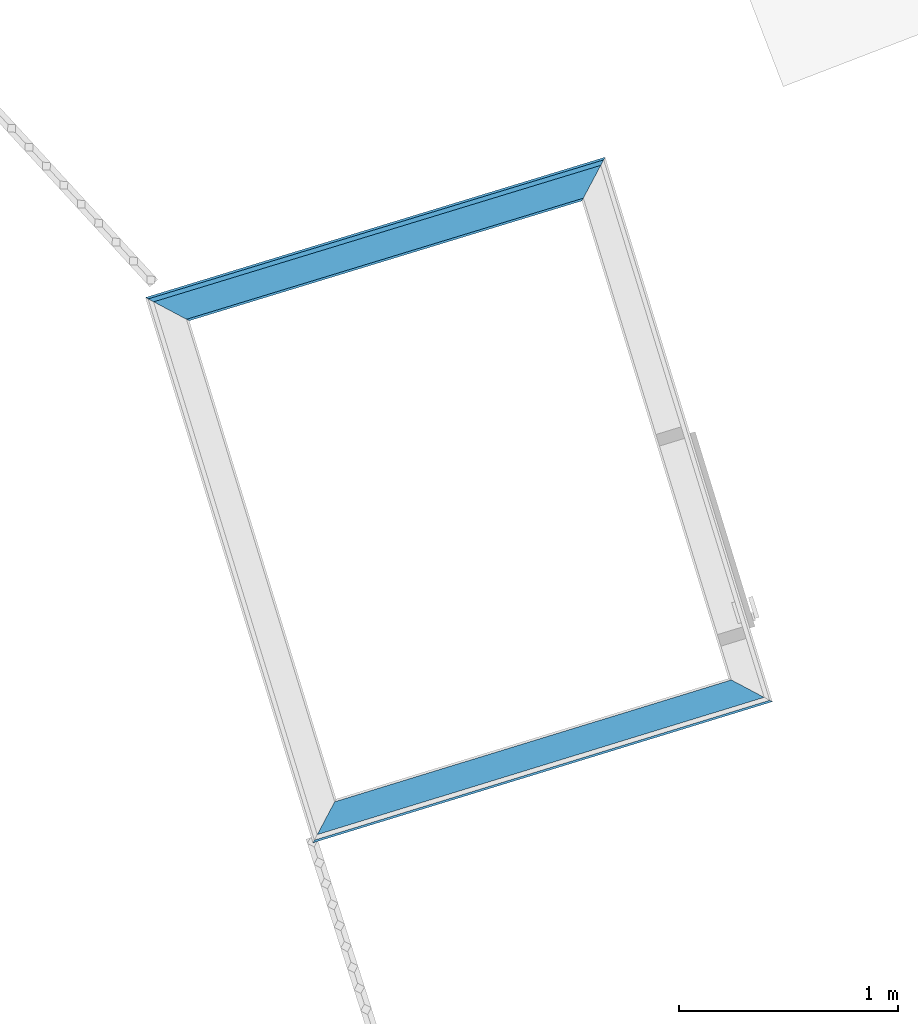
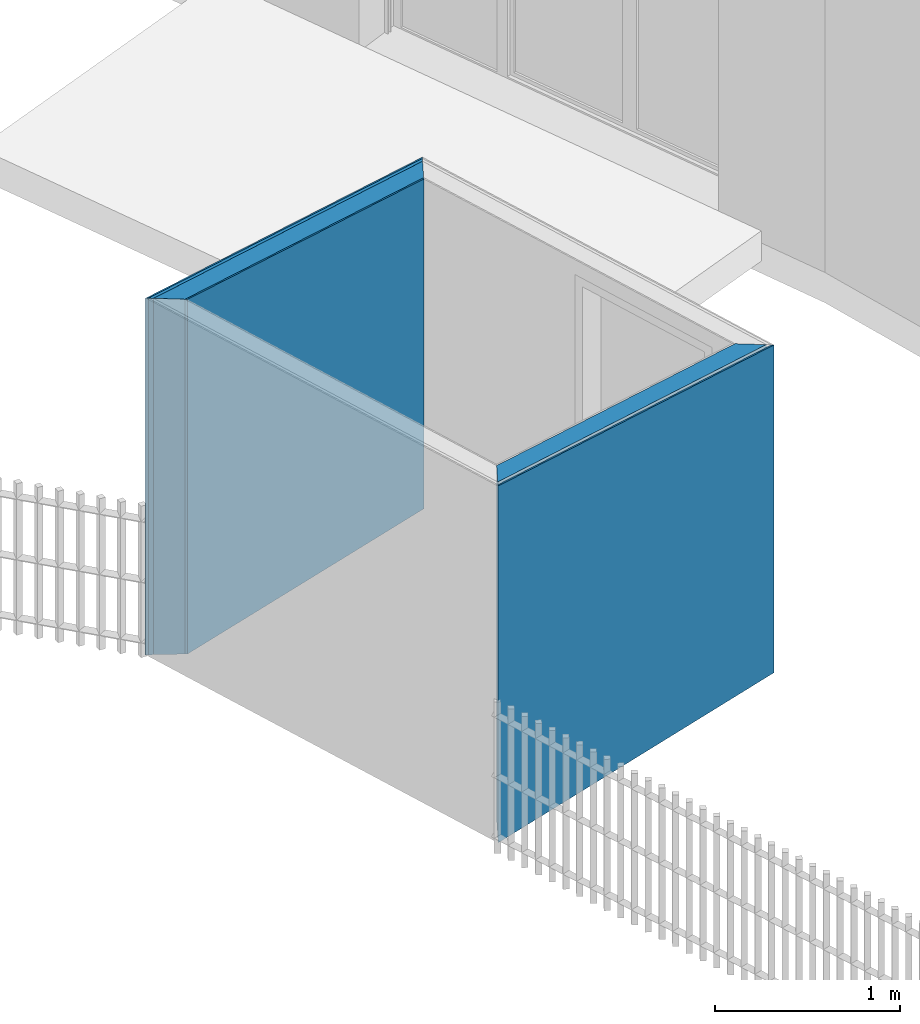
# One storey, part 130 of 195: 6 building element parts, 2 elements without a shape of their own.
"""IFC2X3 building model written with IfcOpenShell, lengths in metres."""

from ifc_helpers import new_model, entity, si_unit, converted_unit, derived_unit, money_unit, direction, frame, origin_with_axes, place, context, subcontext, project, spatial, polyline, outline, extrude, boolean, faceted_brep, material, type_object, element, aggregate, save


model = new_model("IFC2X3")

# Units and contexts
model_context = context("Model", 3, precision=1e-05, world=origin_with_axes(), true_north=direction((0.0, 1.0)))
body_context = subcontext(model_context, "Body", "Model", "MODEL_VIEW")
ifc_project = project(units=[si_unit("LENGTHUNIT", "METRE"), si_unit("AREAUNIT", "SQUARE_METRE"), si_unit("VOLUMEUNIT", "CUBIC_METRE"), converted_unit("PLANEANGLEUNIT", "DEGREE", entity("IfcPlaneAngleMeasure", 0.0174532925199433), si_unit("PLANEANGLEUNIT", "RADIAN"), dimensions=[0, 0, 0, 0, 0, 0, 0]), money_unit("CHF"), converted_unit("TIMEUNIT", "Year", entity("IfcTimeMeasure", 31557600.0), si_unit("TIMEUNIT", "SECOND"), dimensions=[0, 0, 1, 0, 0, 0, 0]), si_unit("MASSUNIT", "GRAM", prefix="KILO"), si_unit("THERMODYNAMICTEMPERATUREUNIT", "DEGREE_CELSIUS"), si_unit("LUMINOUSINTENSITYUNIT", "LUMEN"), si_unit("ENERGYUNIT", "JOULE", prefix="MEGA"), derived_unit("THERMALCONDUCTANCEUNIT", [(si_unit("POWERUNIT", "WATT"), 1), (si_unit("LENGTHUNIT", "METRE"), -1), (si_unit("THERMODYNAMICTEMPERATUREUNIT", "KELVIN"), -1)]), derived_unit("SPECIFICHEATCAPACITYUNIT", [(si_unit("ENERGYUNIT", "JOULE"), 1), (si_unit("MASSUNIT", "GRAM", prefix="KILO"), -1), (si_unit("THERMODYNAMICTEMPERATUREUNIT", "KELVIN"), -1)]), derived_unit("MASSDENSITYUNIT", [(si_unit("MASSUNIT", "GRAM", prefix="KILO"), 1), (si_unit("VOLUMEUNIT", "CUBIC_METRE"), -1)])], contexts=[model_context])

# Site, building, storey
site_placement = place(None, origin_with_axes())
site = spatial("IfcSite", under=ifc_project, at=site_placement, Name="Site", CompositionType="ELEMENT")
building_placement = place(site_placement, origin_with_axes())
building = spatial("IfcBuilding", under=site, at=building_placement, Name="Bâtiment", CompositionType="ELEMENT")
storey_placement = place(building_placement, origin_with_axes())
storey = spatial("IfcBuildingStorey", under=building, at=storey_placement, Name="rdc", CompositionType="ELEMENT", Elevation=0.0)

# Wall, building element parts
wall_type = type_object("IfcWallType", Name="1/Ossatur bois 160   non isol 160", PredefinedType="NOTDEFINED")
wall_1_placement = place(storey_placement, frame((9583.490564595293, -1047.727976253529, 57.7), z_axis=(0.0, 0.0, 1.0), x_axis=(-0.9564332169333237, -0.2919511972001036, 0.0)))
wall_1 = element("IfcWall", 1, at=wall_1_placement, inside=storey, type_object=wall_type, Name="Mur-111")
ifc_material_1 = material(Name="Lame d'air 275581439")
building_element_part_1_placement = place(wall_1_placement, origin_with_axes())
building_element_part_1 = element("IfcBuildingElementPart", 2, at=building_element_part_1_placement, material=ifc_material_1, Name="Lame d'air 275581439", context=body_context, shape_type="CSG", body=[
    boolean("DIFFERENCE", boolean("DIFFERENCE", boolean("DIFFERENCE", boolean("DIFFERENCE", extrude(outline(polyline([(-0.0002757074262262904, 0.03000000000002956), (2.193111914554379, 0.03000000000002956), (2.193111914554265, 0.1499999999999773), (-0.0002757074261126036, 0.1499999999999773), (-0.0002757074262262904, 0.03000000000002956)])), origin_with_axes(), (0.0, 0.0, 1.0), 2.75), faceted_brep([(2.042853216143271, 0.1499999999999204, 2.342973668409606), (2.042853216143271, 0.1499999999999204, 0.0), (2.193111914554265, 0.1499999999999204, 0.0), (2.193111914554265, 0.1499999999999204, 2.75), (-0.0002757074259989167, 0.1499999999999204, 2.75), (-0.0002757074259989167, 0.1499999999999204, 0.0), (0.1497417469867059, 0.1499999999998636, 0.0), (0.1497417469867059, 0.1499999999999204, 2.177348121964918), (2.032835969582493, 0.1599999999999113, 2.342098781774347), (2.032835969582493, 0.1599999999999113, 0.0), (2.193111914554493, 0.1599999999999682, 0.0), (2.193111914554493, 0.1599999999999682, 2.75), (-0.0002757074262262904, 0.1599999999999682, 2.75), (-0.0002757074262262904, 0.1599999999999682, 0.0), (0.1597245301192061, 0.1599999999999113, 0.0), (0.1597245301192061, 0.1599999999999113, 2.178223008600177)], [[[0, 1, 2, 3, 4, 5, 6, 7]], [[8, 9, 1, 0]], [[1, 9, 10, 2]], [[3, 2, 10, 11]], [[12, 4, 3, 11]], [[12, 13, 5, 4]], [[14, 6, 5, 13]], [[7, 6, 14, 15]], [[0, 7, 15, 8]], [[15, 14, 13, 12, 11, 10, 9, 8]]])), faceted_brep([(2.163060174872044, 0.02999999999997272, 2.353472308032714), (2.163060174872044, 0.02999999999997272, 0.0), (2.193111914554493, 0.02999999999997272, 0.0), (2.193111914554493, 0.02999999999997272, 2.75), (-0.0002757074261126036, 0.02999999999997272, 2.75), (-0.0002757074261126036, 0.02999999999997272, 0.0), (0.02994834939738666, 0.02999999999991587, 0.0), (0.02994834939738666, 0.02999999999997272, 2.166849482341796), (2.042853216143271, 0.1499999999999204, 2.342973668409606), (2.042853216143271, 0.1499999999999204, 0.0), (2.193111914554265, 0.1499999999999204, 0.0), (2.193111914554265, 0.1499999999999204, 2.75), (-0.0002757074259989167, 0.1499999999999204, 2.75), (-0.0002757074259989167, 0.1499999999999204, 0.0), (0.1497417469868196, 0.1499999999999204, 0.0), (0.1497417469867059, 0.1499999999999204, 2.177348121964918)], [[[0, 1, 2, 3, 4, 5, 6, 7]], [[8, 9, 1, 0]], [[1, 9, 10, 2]], [[3, 2, 10, 11]], [[12, 4, 3, 11]], [[12, 13, 5, 4]], [[14, 6, 5, 13]], [[7, 6, 14, 15]], [[0, 7, 15, 8]], [[15, 14, 13, 12, 11, 10, 9, 8]]])), faceted_brep([(2.183094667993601, 0.009999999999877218, 2.355222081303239), (2.183094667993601, 0.009999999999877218, 0.0), (2.193111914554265, 0.009999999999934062, 0.0), (2.193111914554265, 0.009999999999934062, 2.75), (-0.0002757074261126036, 0.009999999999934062, 2.75), (-0.0002757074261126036, 0.009999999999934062, 0.0), (0.009982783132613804, 0.009999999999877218, 0.0), (0.00998278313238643, 0.009999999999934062, 2.165099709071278), (2.163060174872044, 0.02999999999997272, 2.353472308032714), (2.163060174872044, 0.02999999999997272, 0.0), (2.193111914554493, 0.02999999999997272, 0.0), (2.193111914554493, 0.02999999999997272, 2.75), (-0.0002757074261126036, 0.02999999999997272, 2.75), (-0.0002757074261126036, 0.02999999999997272, 0.0), (0.02994834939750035, 0.02999999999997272, 0.0), (0.02994834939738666, 0.02999999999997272, 2.166849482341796)], [[[0, 1, 2, 3, 4, 5, 6, 7]], [[8, 9, 1, 0]], [[1, 9, 10, 2]], [[3, 2, 10, 11]], [[12, 4, 3, 11]], [[12, 13, 5, 4]], [[14, 6, 5, 13]], [[7, 6, 14, 15]], [[0, 7, 15, 8]], [[15, 14, 13, 12, 11, 10, 9, 8]]])), faceted_brep([(0.0, 0.0, 2.164224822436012), (2.193111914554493, 0.0, 2.356096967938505), (2.193111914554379, 0.0, 2.75), (-0.0002757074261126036, 0.0, 2.75), (-0.0002757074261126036, 0.0, 0.0), (0.0, 0.0, 0.0), (0.00998278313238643, 0.009999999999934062, 2.165099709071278), (2.183094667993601, 0.009999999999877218, 2.355222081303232), (2.193111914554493, 0.0, 0.0), (2.193111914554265, 0.009999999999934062, 0.0), (2.193111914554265, 0.009999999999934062, 2.75), (-0.0002757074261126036, 0.009999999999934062, 2.75), (-0.0002757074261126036, 0.009999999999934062, 0.0), (0.009982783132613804, 0.009999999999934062, 0.0), (2.183094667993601, 0.009999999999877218, 0.0)], [[[0, 1, 2, 3, 4, 5]], [[1, 0, 6, 7]], [[1, 8, 9, 10, 2]], [[11, 3, 2, 10]], [[11, 12, 4, 3]], [[13, 5, 4, 12]], [[0, 5, 13, 6]], [[6, 13, 12, 11, 10, 9, 14, 7]], [[7, 14, 8, 1]], [[8, 14, 9]]])),
])
ifc_material_2 = material(Name="Sans Trame 296962763")
building_element_part_2_placement = place(wall_1_placement, origin_with_axes())
building_element_part_2 = element("IfcBuildingElementPart", 3, at=building_element_part_2_placement, material=ifc_material_2, Name="Sans Trame 296962763", context=body_context, shape_type="CSG", body=[
    boolean("DIFFERENCE", boolean("DIFFERENCE", boolean("DIFFERENCE", boolean("DIFFERENCE", extrude(outline(polyline([(-0.0002757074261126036, 0.1499999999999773), (2.193111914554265, 0.1499999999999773), (2.193111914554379, 0.160000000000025), (-0.0002757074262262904, 0.1599999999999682), (-0.0002757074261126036, 0.1499999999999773)])), origin_with_axes(), (0.0, 0.0, 1.0), 2.75), faceted_brep([(2.042853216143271, 0.1499999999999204, 2.342973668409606), (2.042853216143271, 0.1499999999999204, 0.0), (2.193111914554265, 0.1499999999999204, 0.0), (2.193111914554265, 0.1499999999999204, 2.75), (-0.0002757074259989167, 0.1499999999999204, 2.75), (-0.0002757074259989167, 0.1499999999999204, 0.0), (0.1497417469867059, 0.1499999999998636, 0.0), (0.1497417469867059, 0.1499999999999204, 2.177348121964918), (2.032835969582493, 0.1599999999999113, 2.342098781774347), (2.032835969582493, 0.1599999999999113, 0.0), (2.193111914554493, 0.1599999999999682, 0.0), (2.193111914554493, 0.1599999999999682, 2.75), (-0.0002757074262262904, 0.1599999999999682, 2.75), (-0.0002757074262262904, 0.1599999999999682, 0.0), (0.1597245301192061, 0.1599999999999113, 0.0), (0.1597245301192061, 0.1599999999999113, 2.178223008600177)], [[[0, 1, 2, 3, 4, 5, 6, 7]], [[8, 9, 1, 0]], [[1, 9, 10, 2]], [[3, 2, 10, 11]], [[12, 4, 3, 11]], [[12, 13, 5, 4]], [[14, 6, 5, 13]], [[7, 6, 14, 15]], [[0, 7, 15, 8]], [[15, 14, 13, 12, 11, 10, 9, 8]]])), faceted_brep([(2.163060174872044, 0.02999999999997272, 2.353472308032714), (2.163060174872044, 0.02999999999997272, 0.0), (2.193111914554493, 0.02999999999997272, 0.0), (2.193111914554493, 0.02999999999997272, 2.75), (-0.0002757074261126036, 0.02999999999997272, 2.75), (-0.0002757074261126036, 0.02999999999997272, 0.0), (0.02994834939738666, 0.02999999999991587, 0.0), (0.02994834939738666, 0.02999999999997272, 2.166849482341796), (2.042853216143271, 0.1499999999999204, 2.342973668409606), (2.042853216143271, 0.1499999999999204, 0.0), (2.193111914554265, 0.1499999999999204, 0.0), (2.193111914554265, 0.1499999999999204, 2.75), (-0.0002757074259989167, 0.1499999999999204, 2.75), (-0.0002757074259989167, 0.1499999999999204, 0.0), (0.1497417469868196, 0.1499999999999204, 0.0), (0.1497417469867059, 0.1499999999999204, 2.177348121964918)], [[[0, 1, 2, 3, 4, 5, 6, 7]], [[8, 9, 1, 0]], [[1, 9, 10, 2]], [[3, 2, 10, 11]], [[12, 4, 3, 11]], [[12, 13, 5, 4]], [[14, 6, 5, 13]], [[7, 6, 14, 15]], [[0, 7, 15, 8]], [[15, 14, 13, 12, 11, 10, 9, 8]]])), faceted_brep([(2.183094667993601, 0.009999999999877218, 2.355222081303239), (2.183094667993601, 0.009999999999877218, 0.0), (2.193111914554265, 0.009999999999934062, 0.0), (2.193111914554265, 0.009999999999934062, 2.75), (-0.0002757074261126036, 0.009999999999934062, 2.75), (-0.0002757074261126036, 0.009999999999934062, 0.0), (0.009982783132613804, 0.009999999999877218, 0.0), (0.00998278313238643, 0.009999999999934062, 2.165099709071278), (2.163060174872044, 0.02999999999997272, 2.353472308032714), (2.163060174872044, 0.02999999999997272, 0.0), (2.193111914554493, 0.02999999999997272, 0.0), (2.193111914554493, 0.02999999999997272, 2.75), (-0.0002757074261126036, 0.02999999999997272, 2.75), (-0.0002757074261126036, 0.02999999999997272, 0.0), (0.02994834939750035, 0.02999999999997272, 0.0), (0.02994834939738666, 0.02999999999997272, 2.166849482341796)], [[[0, 1, 2, 3, 4, 5, 6, 7]], [[8, 9, 1, 0]], [[1, 9, 10, 2]], [[3, 2, 10, 11]], [[12, 4, 3, 11]], [[12, 13, 5, 4]], [[14, 6, 5, 13]], [[7, 6, 14, 15]], [[0, 7, 15, 8]], [[15, 14, 13, 12, 11, 10, 9, 8]]])), faceted_brep([(0.0, 0.0, 2.164224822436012), (2.193111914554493, 0.0, 2.356096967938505), (2.193111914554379, 0.0, 2.75), (-0.0002757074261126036, 0.0, 2.75), (-0.0002757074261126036, 0.0, 0.0), (0.0, 0.0, 0.0), (0.00998278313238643, 0.009999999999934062, 2.165099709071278), (2.183094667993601, 0.009999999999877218, 2.355222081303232), (2.193111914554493, 0.0, 0.0), (2.193111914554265, 0.009999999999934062, 0.0), (2.193111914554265, 0.009999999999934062, 2.75), (-0.0002757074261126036, 0.009999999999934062, 2.75), (-0.0002757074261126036, 0.009999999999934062, 0.0), (0.009982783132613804, 0.009999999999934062, 0.0), (2.183094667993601, 0.009999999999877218, 0.0)], [[[0, 1, 2, 3, 4, 5]], [[1, 0, 6, 7]], [[1, 8, 9, 10, 2]], [[11, 3, 2, 10]], [[11, 12, 4, 3]], [[13, 5, 4, 12]], [[0, 5, 13, 6]], [[6, 13, 12, 11, 10, 9, 14, 7]], [[7, 14, 8, 1]], [[8, 14, 9]]])),
])
ifc_material_3 = material(Name="Hachure solide 323202122")
building_element_part_3_placement = place(wall_1_placement, origin_with_axes())
building_element_part_3 = element("IfcBuildingElementPart", 4, at=building_element_part_3_placement, material=ifc_material_3, Name="Hachure solide 323202122", context=body_context, shape_type="CSG", body=[
    boolean("DIFFERENCE", boolean("DIFFERENCE", boolean("DIFFERENCE", boolean("DIFFERENCE", extrude(outline(polyline([(-0.0002757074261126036, 0.0), (2.193111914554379, 0.0), (2.193111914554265, 0.009999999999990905), (-0.0002757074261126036, 0.009999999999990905), (-0.0002757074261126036, 0.0)])), origin_with_axes(), (0.0, 0.0, 1.0), 2.75), faceted_brep([(2.042853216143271, 0.1499999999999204, 2.342973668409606), (2.042853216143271, 0.1499999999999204, 0.0), (2.193111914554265, 0.1499999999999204, 0.0), (2.193111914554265, 0.1499999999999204, 2.75), (-0.0002757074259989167, 0.1499999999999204, 2.75), (-0.0002757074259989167, 0.1499999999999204, 0.0), (0.1497417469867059, 0.1499999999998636, 0.0), (0.1497417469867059, 0.1499999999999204, 2.177348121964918), (2.032835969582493, 0.1599999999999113, 2.342098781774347), (2.032835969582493, 0.1599999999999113, 0.0), (2.193111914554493, 0.1599999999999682, 0.0), (2.193111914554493, 0.1599999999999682, 2.75), (-0.0002757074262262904, 0.1599999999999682, 2.75), (-0.0002757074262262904, 0.1599999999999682, 0.0), (0.1597245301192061, 0.1599999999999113, 0.0), (0.1597245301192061, 0.1599999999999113, 2.178223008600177)], [[[0, 1, 2, 3, 4, 5, 6, 7]], [[8, 9, 1, 0]], [[1, 9, 10, 2]], [[3, 2, 10, 11]], [[12, 4, 3, 11]], [[12, 13, 5, 4]], [[14, 6, 5, 13]], [[7, 6, 14, 15]], [[0, 7, 15, 8]], [[15, 14, 13, 12, 11, 10, 9, 8]]])), faceted_brep([(2.163060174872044, 0.02999999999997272, 2.353472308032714), (2.163060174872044, 0.02999999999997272, 0.0), (2.193111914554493, 0.02999999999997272, 0.0), (2.193111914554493, 0.02999999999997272, 2.75), (-0.0002757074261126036, 0.02999999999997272, 2.75), (-0.0002757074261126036, 0.02999999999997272, 0.0), (0.02994834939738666, 0.02999999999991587, 0.0), (0.02994834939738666, 0.02999999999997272, 2.166849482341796), (2.042853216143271, 0.1499999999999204, 2.342973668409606), (2.042853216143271, 0.1499999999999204, 0.0), (2.193111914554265, 0.1499999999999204, 0.0), (2.193111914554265, 0.1499999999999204, 2.75), (-0.0002757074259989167, 0.1499999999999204, 2.75), (-0.0002757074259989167, 0.1499999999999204, 0.0), (0.1497417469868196, 0.1499999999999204, 0.0), (0.1497417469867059, 0.1499999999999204, 2.177348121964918)], [[[0, 1, 2, 3, 4, 5, 6, 7]], [[8, 9, 1, 0]], [[1, 9, 10, 2]], [[3, 2, 10, 11]], [[12, 4, 3, 11]], [[12, 13, 5, 4]], [[14, 6, 5, 13]], [[7, 6, 14, 15]], [[0, 7, 15, 8]], [[15, 14, 13, 12, 11, 10, 9, 8]]])), faceted_brep([(2.183094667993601, 0.009999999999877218, 2.355222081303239), (2.183094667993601, 0.009999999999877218, 0.0), (2.193111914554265, 0.009999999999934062, 0.0), (2.193111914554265, 0.009999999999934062, 2.75), (-0.0002757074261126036, 0.009999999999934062, 2.75), (-0.0002757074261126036, 0.009999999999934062, 0.0), (0.009982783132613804, 0.009999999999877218, 0.0), (0.00998278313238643, 0.009999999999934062, 2.165099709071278), (2.163060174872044, 0.02999999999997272, 2.353472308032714), (2.163060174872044, 0.02999999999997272, 0.0), (2.193111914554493, 0.02999999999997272, 0.0), (2.193111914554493, 0.02999999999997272, 2.75), (-0.0002757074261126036, 0.02999999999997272, 2.75), (-0.0002757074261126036, 0.02999999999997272, 0.0), (0.02994834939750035, 0.02999999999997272, 0.0), (0.02994834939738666, 0.02999999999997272, 2.166849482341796)], [[[0, 1, 2, 3, 4, 5, 6, 7]], [[8, 9, 1, 0]], [[1, 9, 10, 2]], [[3, 2, 10, 11]], [[12, 4, 3, 11]], [[12, 13, 5, 4]], [[14, 6, 5, 13]], [[7, 6, 14, 15]], [[0, 7, 15, 8]], [[15, 14, 13, 12, 11, 10, 9, 8]]])), faceted_brep([(0.0, 0.0, 2.164224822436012), (2.193111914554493, 0.0, 2.356096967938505), (2.193111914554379, 0.0, 2.75), (-0.0002757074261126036, 0.0, 2.75), (-0.0002757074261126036, 0.0, 0.0), (0.0, 0.0, 0.0), (0.00998278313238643, 0.009999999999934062, 2.165099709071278), (2.183094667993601, 0.009999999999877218, 2.355222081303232), (2.193111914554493, 0.0, 0.0), (2.193111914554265, 0.009999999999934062, 0.0), (2.193111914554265, 0.009999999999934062, 2.75), (-0.0002757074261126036, 0.009999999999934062, 2.75), (-0.0002757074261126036, 0.009999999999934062, 0.0), (0.009982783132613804, 0.009999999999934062, 0.0), (2.183094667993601, 0.009999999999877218, 0.0)], [[[0, 1, 2, 3, 4, 5]], [[1, 0, 6, 7]], [[1, 8, 9, 10, 2]], [[11, 3, 2, 10]], [[11, 12, 4, 3]], [[13, 5, 4, 12]], [[0, 5, 13, 6]], [[6, 13, 12, 11, 10, 9, 14, 7]], [[7, 14, 8, 1]], [[8, 14, 9]]])),
])
ifc_material_4 = material(Name="Lame d'air 323202302")
building_element_part_4_placement = place(wall_1_placement, origin_with_axes())
building_element_part_4 = element("IfcBuildingElementPart", 5, at=building_element_part_4_placement, material=ifc_material_4, Name="Lame d'air 323202302", context=body_context, shape_type="CSG", body=[
    boolean("DIFFERENCE", boolean("DIFFERENCE", boolean("DIFFERENCE", boolean("DIFFERENCE", extrude(outline(polyline([(-0.0002757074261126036, 0.009999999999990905), (2.193111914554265, 0.009999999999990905), (2.193111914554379, 0.03000000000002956), (-0.0002757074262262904, 0.03000000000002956), (-0.0002757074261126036, 0.009999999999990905)])), origin_with_axes(), (0.0, 0.0, 1.0), 2.75), faceted_brep([(2.042853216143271, 0.1499999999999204, 2.342973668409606), (2.042853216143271, 0.1499999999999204, 0.0), (2.193111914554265, 0.1499999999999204, 0.0), (2.193111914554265, 0.1499999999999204, 2.75), (-0.0002757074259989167, 0.1499999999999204, 2.75), (-0.0002757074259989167, 0.1499999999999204, 0.0), (0.1497417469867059, 0.1499999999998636, 0.0), (0.1497417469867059, 0.1499999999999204, 2.177348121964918), (2.032835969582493, 0.1599999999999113, 2.342098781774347), (2.032835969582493, 0.1599999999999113, 0.0), (2.193111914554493, 0.1599999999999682, 0.0), (2.193111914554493, 0.1599999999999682, 2.75), (-0.0002757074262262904, 0.1599999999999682, 2.75), (-0.0002757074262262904, 0.1599999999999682, 0.0), (0.1597245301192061, 0.1599999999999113, 0.0), (0.1597245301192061, 0.1599999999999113, 2.178223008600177)], [[[0, 1, 2, 3, 4, 5, 6, 7]], [[8, 9, 1, 0]], [[1, 9, 10, 2]], [[3, 2, 10, 11]], [[12, 4, 3, 11]], [[12, 13, 5, 4]], [[14, 6, 5, 13]], [[7, 6, 14, 15]], [[0, 7, 15, 8]], [[15, 14, 13, 12, 11, 10, 9, 8]]])), faceted_brep([(2.163060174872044, 0.02999999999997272, 2.353472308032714), (2.163060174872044, 0.02999999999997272, 0.0), (2.193111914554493, 0.02999999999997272, 0.0), (2.193111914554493, 0.02999999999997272, 2.75), (-0.0002757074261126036, 0.02999999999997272, 2.75), (-0.0002757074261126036, 0.02999999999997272, 0.0), (0.02994834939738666, 0.02999999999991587, 0.0), (0.02994834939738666, 0.02999999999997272, 2.166849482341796), (2.042853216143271, 0.1499999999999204, 2.342973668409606), (2.042853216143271, 0.1499999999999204, 0.0), (2.193111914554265, 0.1499999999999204, 0.0), (2.193111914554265, 0.1499999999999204, 2.75), (-0.0002757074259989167, 0.1499999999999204, 2.75), (-0.0002757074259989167, 0.1499999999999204, 0.0), (0.1497417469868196, 0.1499999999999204, 0.0), (0.1497417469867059, 0.1499999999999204, 2.177348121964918)], [[[0, 1, 2, 3, 4, 5, 6, 7]], [[8, 9, 1, 0]], [[1, 9, 10, 2]], [[3, 2, 10, 11]], [[12, 4, 3, 11]], [[12, 13, 5, 4]], [[14, 6, 5, 13]], [[7, 6, 14, 15]], [[0, 7, 15, 8]], [[15, 14, 13, 12, 11, 10, 9, 8]]])), faceted_brep([(2.183094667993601, 0.009999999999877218, 2.355222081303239), (2.183094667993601, 0.009999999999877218, 0.0), (2.193111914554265, 0.009999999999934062, 0.0), (2.193111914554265, 0.009999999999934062, 2.75), (-0.0002757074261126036, 0.009999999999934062, 2.75), (-0.0002757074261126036, 0.009999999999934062, 0.0), (0.009982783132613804, 0.009999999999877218, 0.0), (0.00998278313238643, 0.009999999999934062, 2.165099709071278), (2.163060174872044, 0.02999999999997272, 2.353472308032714), (2.163060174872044, 0.02999999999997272, 0.0), (2.193111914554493, 0.02999999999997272, 0.0), (2.193111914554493, 0.02999999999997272, 2.75), (-0.0002757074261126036, 0.02999999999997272, 2.75), (-0.0002757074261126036, 0.02999999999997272, 0.0), (0.02994834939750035, 0.02999999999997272, 0.0), (0.02994834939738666, 0.02999999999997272, 2.166849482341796)], [[[0, 1, 2, 3, 4, 5, 6, 7]], [[8, 9, 1, 0]], [[1, 9, 10, 2]], [[3, 2, 10, 11]], [[12, 4, 3, 11]], [[12, 13, 5, 4]], [[14, 6, 5, 13]], [[7, 6, 14, 15]], [[0, 7, 15, 8]], [[15, 14, 13, 12, 11, 10, 9, 8]]])), faceted_brep([(0.0, 0.0, 2.164224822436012), (2.193111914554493, 0.0, 2.356096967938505), (2.193111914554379, 0.0, 2.75), (-0.0002757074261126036, 0.0, 2.75), (-0.0002757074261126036, 0.0, 0.0), (0.0, 0.0, 0.0), (0.00998278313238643, 0.009999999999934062, 2.165099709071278), (2.183094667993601, 0.009999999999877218, 2.355222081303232), (2.193111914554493, 0.0, 0.0), (2.193111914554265, 0.009999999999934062, 0.0), (2.193111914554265, 0.009999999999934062, 2.75), (-0.0002757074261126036, 0.009999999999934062, 2.75), (-0.0002757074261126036, 0.009999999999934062, 0.0), (0.009982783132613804, 0.009999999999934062, 0.0), (2.183094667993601, 0.009999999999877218, 0.0)], [[[0, 1, 2, 3, 4, 5]], [[1, 0, 6, 7]], [[1, 8, 9, 10, 2]], [[11, 3, 2, 10]], [[11, 12, 4, 3]], [[13, 5, 4, 12]], [[0, 5, 13, 6]], [[6, 13, 12, 11, 10, 9, 14, 7]], [[7, 14, 8, 1]], [[8, 14, 9]]])),
])
aggregate(wall_1, [building_element_part_1, building_element_part_2, building_element_part_3, building_element_part_4])

wall_2_placement = place(storey_placement, frame((9584.25368683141, -1050.212626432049, 57.7), z_axis=(0.0, 0.0, 1.0), x_axis=(-0.955928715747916, -0.2935988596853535, 0.0)))
wall_2 = element("IfcWall", 6, at=wall_2_placement, inside=storey, type_object=wall_type, Name="Mur-111")
building_element_part_5_placement = place(wall_2_placement, origin_with_axes())
building_element_part_5 = element("IfcBuildingElementPart", 7, at=building_element_part_5_placement, material=ifc_material_3, Name="Hachure solide 323202122", context=body_context, shape_type="CSG", body=[
    boolean("DIFFERENCE", boolean("DIFFERENCE", boolean("DIFFERENCE", boolean("DIFFERENCE", extrude(outline(polyline([(0.0, -0.01000000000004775), (2.193108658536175, -0.009999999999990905), (2.193108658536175, 0.0), (0.0, 0.0), (0.0, -0.01000000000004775)])), origin_with_axes(), (0.0, 0.0, 1.0), 2.75), faceted_brep([(2.043108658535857, -0.1499999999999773, 0.0), (2.043108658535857, -0.1499999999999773, 2.342973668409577), (0.1499999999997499, -0.1500000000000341, 2.17734812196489), (0.1499999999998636, -0.1500000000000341, 0.0), (0.0, -0.1500000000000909, 0.0), (0.0, -0.1500000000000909, 2.75), (2.193108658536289, -0.1499999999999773, 2.75), (2.193108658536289, -0.1499999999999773, 0.0), (2.033108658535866, -0.1599999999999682, 0.0), (2.033108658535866, -0.1599999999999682, 2.342098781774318), (0.1599999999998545, -0.160000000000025, 2.178223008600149), (0.1599999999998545, -0.160000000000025, 0.0), (0.0, -0.160000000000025, 0.0), (0.0, -0.160000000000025, 2.75), (2.193108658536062, -0.160000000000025, 2.75), (2.193108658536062, -0.160000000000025, 0.0)], [[[0, 1, 2, 3, 4, 5, 6, 7]], [[8, 9, 1, 0]], [[2, 1, 9, 10]], [[3, 2, 10, 11]], [[3, 11, 12, 4]], [[5, 4, 12, 13]], [[5, 13, 14, 6]], [[14, 15, 7, 6]], [[8, 0, 7, 15]], [[9, 8, 15, 14, 13, 12, 11, 10]]])), faceted_brep([(2.163108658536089, -0.02999999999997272, 0.0), (2.163108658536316, -0.02999999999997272, 2.353472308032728), (0.02999999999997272, -0.0300000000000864, 2.166849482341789), (0.02999999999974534, -0.0300000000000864, 0.0), (0.0, -0.03000000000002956, 0.0), (0.0, -0.03000000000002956, 2.75), (2.193108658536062, -0.03000000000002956, 2.75), (2.193108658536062, -0.03000000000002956, 0.0), (2.043108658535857, -0.1499999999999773, 0.0), (2.043108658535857, -0.1499999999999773, 2.342973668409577), (0.1499999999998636, -0.1500000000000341, 2.17734812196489), (0.1499999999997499, -0.1499999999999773, 0.0), (0.0, -0.1500000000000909, 0.0), (0.0, -0.1500000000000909, 2.75), (2.193108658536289, -0.1499999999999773, 2.75), (2.193108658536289, -0.1499999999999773, 0.0)], [[[0, 1, 2, 3, 4, 5, 6, 7]], [[8, 9, 1, 0]], [[2, 1, 9, 10]], [[3, 2, 10, 11]], [[3, 11, 12, 4]], [[5, 4, 12, 13]], [[5, 13, 14, 6]], [[14, 15, 7, 6]], [[8, 0, 7, 15]], [[9, 8, 15, 14, 13, 12, 11, 10]]])), faceted_brep([(2.183108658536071, -0.009999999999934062, 0.0), (2.183108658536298, -0.009999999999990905, 2.355222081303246), (0.009999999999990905, -0.01000000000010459, 2.165099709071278), (0.009999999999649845, -0.01000000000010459, 0.0), (0.0, -0.01000000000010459, 0.0), (0.0, -0.01000000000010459, 2.75), (2.193108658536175, -0.01000000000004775, 2.75), (2.193108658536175, -0.01000000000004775, 0.0), (2.163108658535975, -0.02999999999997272, 0.0), (2.163108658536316, -0.02999999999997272, 2.353472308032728), (0.02999999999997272, -0.0300000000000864, 2.166849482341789), (0.02999999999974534, -0.0300000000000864, 0.0), (0.0, -0.03000000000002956, 0.0), (0.0, -0.03000000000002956, 2.75), (2.193108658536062, -0.03000000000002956, 2.75), (2.193108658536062, -0.03000000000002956, 0.0)], [[[0, 1, 2, 3, 4, 5, 6, 7]], [[8, 9, 1, 0]], [[2, 1, 9, 10]], [[3, 2, 10, 11]], [[3, 11, 12, 4]], [[5, 4, 12, 13]], [[5, 13, 14, 6]], [[14, 15, 7, 6]], [[8, 0, 7, 15]], [[9, 8, 15, 14, 13, 12, 11, 10]]])), faceted_brep([(2.193108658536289, 0.0, 2.356096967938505), (0.0, 0.0, 2.164224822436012), (0.0, 0.0, 2.75), (2.193108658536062, 0.0, 2.75), (2.183108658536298, -0.009999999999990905, 2.355222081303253), (0.009999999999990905, -0.01000000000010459, 2.165099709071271), (0.0, 0.0, 0.0), (0.0, -0.01000000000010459, 0.0), (0.0, -0.01000000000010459, 2.75), (2.193108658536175, -0.01000000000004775, 2.75), (2.193108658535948, 0.0, 0.0), (2.193108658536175, -0.01000000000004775, 0.0), (2.183108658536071, -0.01000000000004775, 0.0), (0.009999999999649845, -0.01000000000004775, 0.0)], [[[0, 1, 2, 3]], [[1, 0, 4, 5]], [[1, 6, 7, 8, 2]], [[2, 8, 9, 3]], [[10, 0, 3, 9, 11]], [[12, 4, 0, 10]], [[4, 12, 11, 9, 8, 7, 13, 5]], [[6, 1, 5, 13]], [[6, 13, 7]], [[12, 10, 11]]])),
])
building_element_part_6_placement = place(wall_2_placement, origin_with_axes())
building_element_part_6 = element("IfcBuildingElementPart", 8, at=building_element_part_6_placement, material=ifc_material_1, Name="Lame d'air 275581439", context=body_context, shape_type="CSG", body=[
    boolean("DIFFERENCE", boolean("DIFFERENCE", boolean("DIFFERENCE", boolean("DIFFERENCE", extrude(outline(polyline([(0.0, -0.1500000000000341), (2.193108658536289, -0.1499999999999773), (2.193108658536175, -0.02999999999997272), (0.0, -0.03000000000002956), (0.0, -0.1500000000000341)])), origin_with_axes(), (0.0, 0.0, 1.0), 2.75), faceted_brep([(2.043108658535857, -0.1499999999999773, 0.0), (2.043108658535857, -0.1499999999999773, 2.342973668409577), (0.1499999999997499, -0.1500000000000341, 2.17734812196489), (0.1499999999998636, -0.1500000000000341, 0.0), (0.0, -0.1500000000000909, 0.0), (0.0, -0.1500000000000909, 2.75), (2.193108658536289, -0.1499999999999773, 2.75), (2.193108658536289, -0.1499999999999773, 0.0), (2.033108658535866, -0.1599999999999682, 0.0), (2.033108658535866, -0.1599999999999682, 2.342098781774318), (0.1599999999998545, -0.160000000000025, 2.178223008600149), (0.1599999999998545, -0.160000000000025, 0.0), (0.0, -0.160000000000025, 0.0), (0.0, -0.160000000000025, 2.75), (2.193108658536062, -0.160000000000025, 2.75), (2.193108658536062, -0.160000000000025, 0.0)], [[[0, 1, 2, 3, 4, 5, 6, 7]], [[8, 9, 1, 0]], [[2, 1, 9, 10]], [[3, 2, 10, 11]], [[3, 11, 12, 4]], [[5, 4, 12, 13]], [[5, 13, 14, 6]], [[14, 15, 7, 6]], [[8, 0, 7, 15]], [[9, 8, 15, 14, 13, 12, 11, 10]]])), faceted_brep([(2.163108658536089, -0.02999999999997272, 0.0), (2.163108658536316, -0.02999999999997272, 2.353472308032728), (0.02999999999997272, -0.0300000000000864, 2.166849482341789), (0.02999999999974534, -0.0300000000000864, 0.0), (0.0, -0.03000000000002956, 0.0), (0.0, -0.03000000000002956, 2.75), (2.193108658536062, -0.03000000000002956, 2.75), (2.193108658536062, -0.03000000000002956, 0.0), (2.043108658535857, -0.1499999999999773, 0.0), (2.043108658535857, -0.1499999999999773, 2.342973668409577), (0.1499999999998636, -0.1500000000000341, 2.17734812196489), (0.1499999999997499, -0.1499999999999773, 0.0), (0.0, -0.1500000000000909, 0.0), (0.0, -0.1500000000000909, 2.75), (2.193108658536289, -0.1499999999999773, 2.75), (2.193108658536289, -0.1499999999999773, 0.0)], [[[0, 1, 2, 3, 4, 5, 6, 7]], [[8, 9, 1, 0]], [[2, 1, 9, 10]], [[3, 2, 10, 11]], [[3, 11, 12, 4]], [[5, 4, 12, 13]], [[5, 13, 14, 6]], [[14, 15, 7, 6]], [[8, 0, 7, 15]], [[9, 8, 15, 14, 13, 12, 11, 10]]])), faceted_brep([(2.183108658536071, -0.009999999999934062, 0.0), (2.183108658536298, -0.009999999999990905, 2.355222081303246), (0.009999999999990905, -0.01000000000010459, 2.165099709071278), (0.009999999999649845, -0.01000000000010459, 0.0), (0.0, -0.01000000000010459, 0.0), (0.0, -0.01000000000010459, 2.75), (2.193108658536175, -0.01000000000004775, 2.75), (2.193108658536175, -0.01000000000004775, 0.0), (2.163108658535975, -0.02999999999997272, 0.0), (2.163108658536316, -0.02999999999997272, 2.353472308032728), (0.02999999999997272, -0.0300000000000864, 2.166849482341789), (0.02999999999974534, -0.0300000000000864, 0.0), (0.0, -0.03000000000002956, 0.0), (0.0, -0.03000000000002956, 2.75), (2.193108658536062, -0.03000000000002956, 2.75), (2.193108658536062, -0.03000000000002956, 0.0)], [[[0, 1, 2, 3, 4, 5, 6, 7]], [[8, 9, 1, 0]], [[2, 1, 9, 10]], [[3, 2, 10, 11]], [[3, 11, 12, 4]], [[5, 4, 12, 13]], [[5, 13, 14, 6]], [[14, 15, 7, 6]], [[8, 0, 7, 15]], [[9, 8, 15, 14, 13, 12, 11, 10]]])), faceted_brep([(2.193108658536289, 0.0, 2.356096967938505), (0.0, 0.0, 2.164224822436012), (0.0, 0.0, 2.75), (2.193108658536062, 0.0, 2.75), (2.183108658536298, -0.009999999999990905, 2.355222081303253), (0.009999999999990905, -0.01000000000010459, 2.165099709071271), (0.0, 0.0, 0.0), (0.0, -0.01000000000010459, 0.0), (0.0, -0.01000000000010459, 2.75), (2.193108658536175, -0.01000000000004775, 2.75), (2.193108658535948, 0.0, 0.0), (2.193108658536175, -0.01000000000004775, 0.0), (2.183108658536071, -0.01000000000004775, 0.0), (0.009999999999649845, -0.01000000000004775, 0.0)], [[[0, 1, 2, 3]], [[1, 0, 4, 5]], [[1, 6, 7, 8, 2]], [[2, 8, 9, 3]], [[10, 0, 3, 9, 11]], [[12, 4, 0, 10]], [[4, 12, 11, 9, 8, 7, 13, 5]], [[6, 1, 5, 13]], [[6, 13, 7]], [[12, 10, 11]]])),
])
aggregate(wall_2, [building_element_part_5, building_element_part_6])

save(model, "model.ifc")
